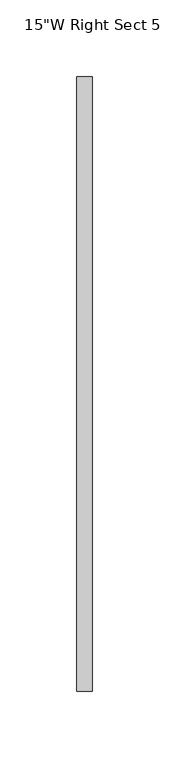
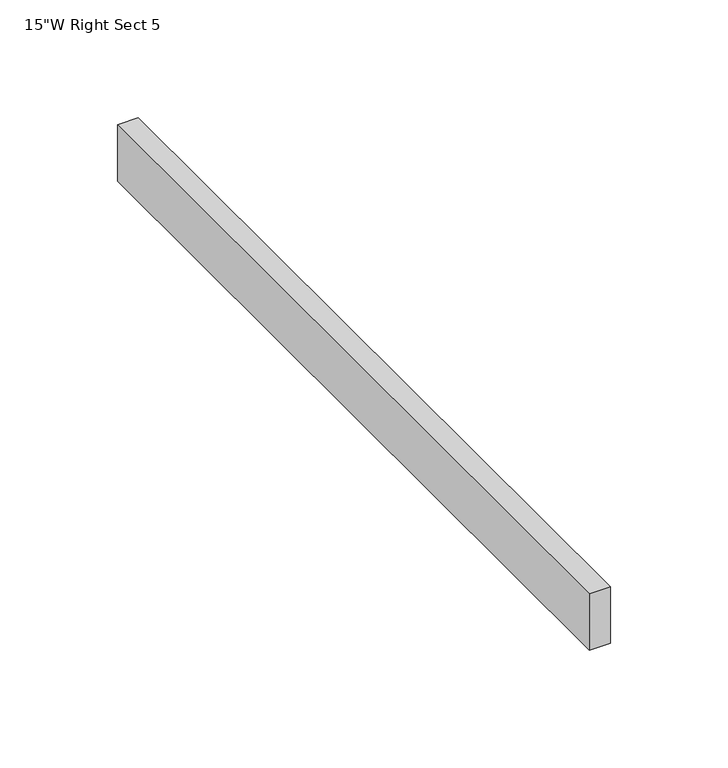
"""IFC4 building model written with IfcOpenShell, lengths in millimetres: furniture geometry."""

from ifc_helpers import new_model, si_unit, frame, origin, place, context, project, spatial, polyline, outline, extrude, source, transform, mapped, element, save


def furniture_abe30ba1(model_context):
    return source(origin(), model_context, "Body", "SweptSolid", [
        extrude(outline(polyline([(5.1854483, 200.787), (5.1854483, -200.787), (-5.0507517, -200.787), (-5.0507517, 200.787), (5.1854483, 200.787)])), frame((0.0, 0.0, 904.875), z_axis=(0.0, 0.0, 1.0), x_axis=(1.0, 0.0, 0.0)), (0.0, 0.0, 1.0), 29.4386),
    ])


if __name__ == "__main__":
    model = new_model("IFC4")
    model_context = context("Model", 3, world=origin())
    ifc_project = project(units=[si_unit("LENGTHUNIT", "METRE", prefix="MILLI")], contexts=[model_context])
    site = spatial("IfcSite", under=ifc_project)
    building = spatial("IfcBuilding", under=site)
    placement = place(None, origin())
    furniture_shape = furniture_abe30ba1(model_context)
    element("IfcFurniture", 1, ObjectType="HermanMiller_Carts_CT782_AccessoryRailSide : 15\"W Right Sect 5", at=placement, inside=building, context=model_context, shape_type="MappedRepresentation", body=[
        mapped(furniture_shape, transform((0.0, 0.0, 0.0), x_axis=(1.0, 0.0, 0.0), y_axis=(0.0, 1.0, 0.0), z_axis=(0.0, 0.0, 1.0))),
    ])
    save(model, "model.ifc")
